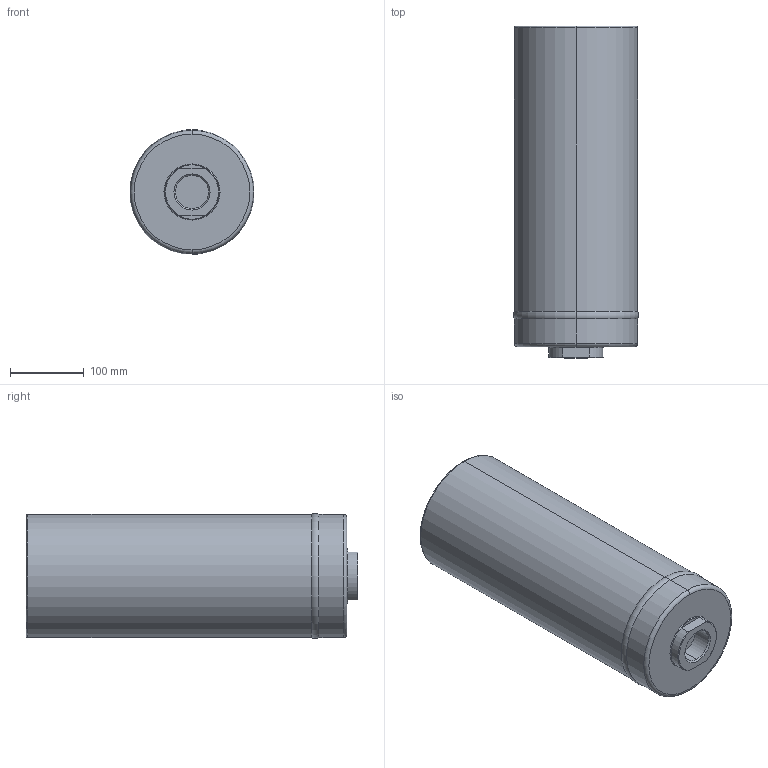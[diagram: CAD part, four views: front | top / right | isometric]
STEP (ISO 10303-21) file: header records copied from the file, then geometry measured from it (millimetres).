
FILE_DESCRIPTION (( 'STEP AP214' ), '1' );
FILE_NAME ('U060A12X1-AI.STEP', '2025-05-28T10:07:29', ( '' ), ( '' ), 'SwSTEP 2.0', 'SolidWorks 2024', '' );
FILE_SCHEMA (( 'AUTOMOTIVE_DESIGN' ));
Length unit declared in the file: millimetre
Products named in the file (1): U060A12X1-AI
Bounding box: 169.67 x 450.48 x 169.67 mm (x, y, z)
Volume: 9134306.3 mm3; surface area: 326003.8 mm2
Topology: 9 solids, 9 shells, 276 faces, 604 edges, 354 vertices
Faces by surface type: plane 106, cylinder 78, torus 48, cone 40, sphere 4
Entity records: 7748 total; most frequent: CARTESIAN_POINT 1443, DIRECTION 1433, ORIENTED_EDGE 1184, EDGE_CURVE 592, AXIS2_PLACEMENT_3D 586, VERTEX_POINT 354, EDGE_LOOP 314, CIRCLE 309
